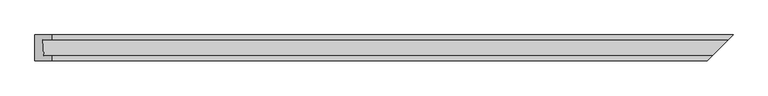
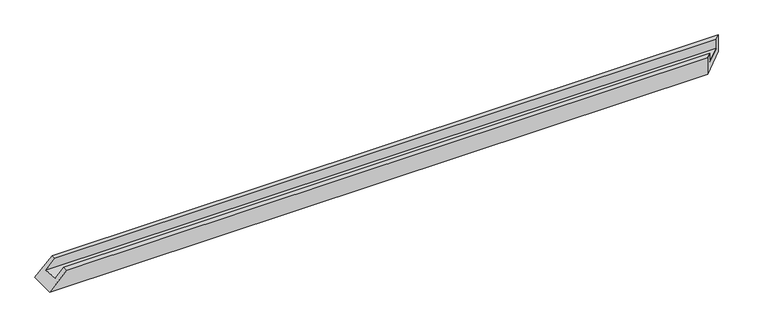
"""IFC4 building model written with IfcOpenShell, lengths in millimetres: proxy geometry, Weiku - Montante - Caixilho duplo 02.2.01.002 de canto : Weiku - Montante - Caixilho duplo 02.2.01.002 de canto."""

from ifc_helpers import new_model, si_unit, origin, place, context, project, spatial, faceted_brep, source, transform, mapped, element, save


def generic_models_c4ffe635(model_context):
    return source(origin(), model_context, "Body", "Brep", [
        faceted_brep([(-972.5, 15.0, 26.0), (-946.5, 15.0, 52.0), (1013.5, 15.0, 52.0), (1013.5, 15.0, 26.0), (-974.7229744, 62.0, 23.7770256), (1060.5, 62.0, 23.7770256), (-946.5, 62.0, 52.0), (1060.5, 62.0, 52.0), (-946.5, 77.0, 52.0), (1075.5, 77.0, 52.0), (-998.5, 77.0, 0.0), (1075.5, 77.0, 0.0), (-998.5, 0.0, 0.0), (998.5, 0.0, 0.0), (-946.5, 0.0, 52.0), (998.5, 0.0, 52.0)], [[[0, 1, 2, 3]], [[4, 0, 3, 5]], [[6, 4, 5, 7]], [[8, 6, 7, 9]], [[10, 8, 9, 11]], [[12, 10, 11, 13]], [[14, 12, 13, 15]], [[1, 14, 15, 2]], [[3, 2, 15, 13, 11, 9, 7, 5]], [[1, 0, 4, 6, 8, 10, 12, 14]]]),
    ])


if __name__ == "__main__":
    model = new_model("IFC4")
    model_context = context("Model", 3, world=origin())
    ifc_project = project(units=[si_unit("LENGTHUNIT", "METRE", prefix="MILLI")], contexts=[model_context])
    site = spatial("IfcSite", under=ifc_project)
    building = spatial("IfcBuilding", under=site)
    placement = place(None, origin())
    generic_models_shape = generic_models_c4ffe635(model_context)
    element("IfcBuildingElementProxy", 1, Name="Weiku - Montante - Caixilho duplo 02.2.01.002 de canto : Weiku - Montante - Caixilho duplo 02.2.01.002 de canto", ObjectType="Weiku - Montante - Caixilho duplo 02.2.01.002 de canto : Weiku - Montante - Caixilho duplo 02.2.01.002 de canto", at=placement, inside=building, context=model_context, shape_type="MappedRepresentation", body=[
        mapped(generic_models_shape, transform((0.0, 0.0, 0.0), x_axis=(1.0, 0.0, 0.0), y_axis=(0.0, 1.0, 0.0), z_axis=(0.0, 0.0, 1.0))),
    ])
    save(model, "model.ifc")
